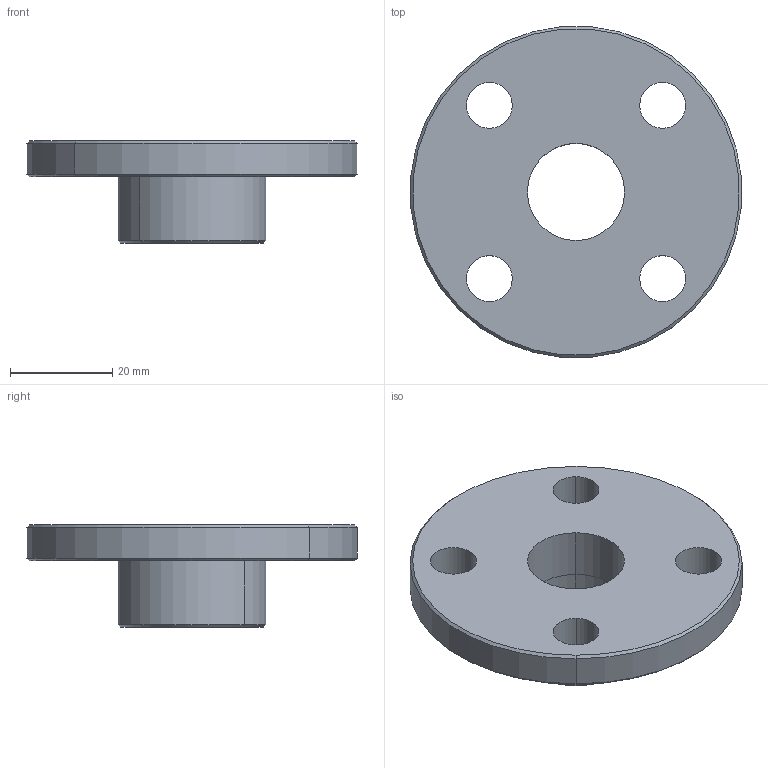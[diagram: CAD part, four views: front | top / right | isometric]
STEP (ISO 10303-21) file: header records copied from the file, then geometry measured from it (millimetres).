
FILE_DESCRIPTION (( 'STEP AP203' ), '1' );
FILE_NAME ('MJ1-FPL.SLDPRT.STEP', '2024-01-15T14:40:06', ( '' ), ( '' ), 'SwSTEP 2.0', 'SolidWorks 2022', '' );
FILE_SCHEMA (( 'CONFIG_CONTROL_DESIGN' ));
Length unit declared in the file: millimetre
Products named in the file (1): MJ1-FPL.SLDPRT
Bounding box: 64.75 x 64.75 x 20 mm (x, y, z)
Volume: 23635.5 mm3; surface area: 10146.5 mm2
Topology: 1 solids, 1 shells, 32 faces, 72 edges, 46 vertices
Faces by surface type: cylinder 20, cone 6, plane 6
Entity records: 1011 total; most frequent: DIRECTION 184, CARTESIAN_POINT 151, ORIENTED_EDGE 144, AXIS2_PLACEMENT_3D 79, EDGE_CURVE 72, VERTEX_POINT 46, EDGE_LOOP 46, CIRCLE 46
